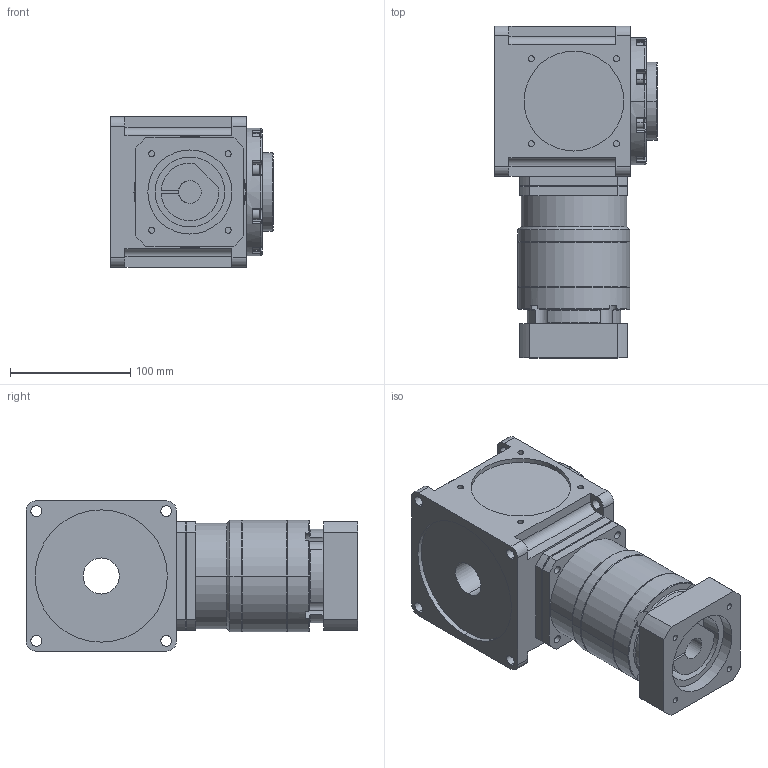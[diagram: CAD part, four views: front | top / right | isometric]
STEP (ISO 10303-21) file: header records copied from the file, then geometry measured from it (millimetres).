
FILE_DESCRIPTION (( 'STEP AP214' ), '1' );
FILE_NAME ('CCW125A-L2(24-200)-RF 19-70-90-M6.STEP', '2025-05-23T06:43:06', ( '微软用户' ), ( '微软中国' ), 'SwSTEP 2.0', 'SolidWorks 2024', '' );
FILE_SCHEMA (( 'AUTOMOTIVE_DESIGN' ));
Length unit declared in the file: millimetre
Products named in the file (3): CCW125A-L2(24-200)-RF 19-70-90-M6; VRB-090-L2-S2-P1 19-70-90-M6; CCW125A-002-RF箱体
Assembly tree (2 placements, depth 2):
  CCW125A-L2(24-200)-RF 19-70-90-M6
    CCW125A-002-RF箱体
    VRB-090-L2-S2-P1 19-70-90-M6
Bounding box: 135.5 x 276 x 125 mm (x, y, z)
Volume: 2644879.5 mm3; surface area: 205511.7 mm2
Topology: 2 solids, 2 shells, 524 faces, 1255 edges, 779 vertices
Faces by surface type: cylinder 223, plane 191, cone 49, torus 45, sphere 16
Entity records: 15396 total; most frequent: DIRECTION 2866, CARTESIAN_POINT 2728, ORIENTED_EDGE 2474, EDGE_CURVE 1237, AXIS2_PLACEMENT_3D 1143, VERTEX_POINT 779, CIRCLE 614, EDGE_LOOP 612
